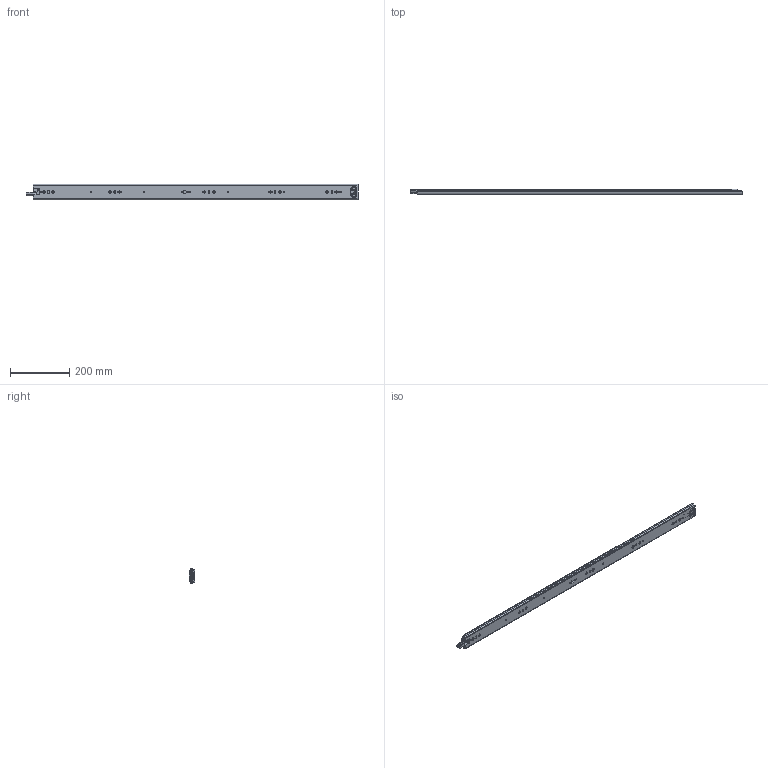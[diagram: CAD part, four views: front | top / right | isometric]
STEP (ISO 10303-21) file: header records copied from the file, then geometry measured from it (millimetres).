
FILE_DESCRIPTION((''),'2;1');
FILE_NAME('1053-3S-44ZUZHUANGTU_ASM','2023-04-12T',('jishu015'),(''),'PRO/ENGINEER BY PARAMETRIC TECHNOLOGY CORPORATION, 2010280','PRO/ENGINEER BY PARAMETRIC TECHNOLOGY CORPORATION, 2010280','');
FILE_SCHEMA(('CONFIG_CONTROL_DESIGN'));
Products named in the file (20): 1053-02-18WAIKE_______________; 1053WEIJIAO_______________; 1053-3S-24WAIKE________________ASM; 1053ZHUTIAO-175_______________; 53-5-6GANZHU_______________; 1053ZHUTIAO-175MM21_ASM; 1053-02-18ZHONGGUI1_; ZHONGGUIPEIJIAN_____________; ZHONGGUISUOKOU_____________; 1053-02-18ZHONGGUI1__ASM; 1053XIAOZHUJIA-14GE1__; 1053XIAOZHUJIA-14GE1___ASM; 1053-02-18NEIGUI_______________; DAOPIAN___________; PIAN___________; 1053-3SBANJI123__________; JIAO-11__________; 50XINSUOKOU11_________; 1053-02-18NEIGUI________________ASM; 1053-3S-44ZUZHUANGTU_ASM
Assembly tree (119 placements, depth 3):
  1053-3S-44ZUZHUANGTU_ASM
    1053-3S-24WAIKE________________ASM
      1053-02-18WAIKE_______________
      1053WEIJIAO_______________
    1053ZHUTIAO-175MM21_ASM  x2
      1053ZHUTIAO-175_______________
      53-5-6GANZHU_______________
    1053-02-18ZHONGGUI1__ASM
      1053-02-18ZHONGGUI1_
      ZHONGGUIPEIJIAN_____________
      ZHONGGUISUOKOU_____________
    1053XIAOZHUJIA-14GE1___ASM
      1053XIAOZHUJIA-14GE1__
      53-5-6GANZHU_______________  x80
    1053-02-18NEIGUI________________ASM
      1053-02-18NEIGUI_______________
      DAOPIAN___________
      PIAN___________
      1053-3SBANJI123__________
      JIAO-11__________
      50XINSUOKOU11_________
Bounding box: 1125.42 x 18.7 x 53 mm (x, y, z)
Volume: 422148.8 mm3; surface area: 489545.2 mm2
Topology: 135 solids, 135 shells, 3103 faces, 9019 edges, 5603 vertices
Faces by surface type: cylinder 1382, plane 1227, sphere 248, bspline 121, cone 86, extrusion 23, torus 16
Entity records: 97872 total; most frequent: CARTESIAN_POINT 23239, ORIENTED_EDGE 15816, DIRECTION 15395, EDGE_CURVE 7908, AXIS2_PLACEMENT_3D 5319, VERTEX_POINT 5109, VECTOR 4757, LINE 4734
